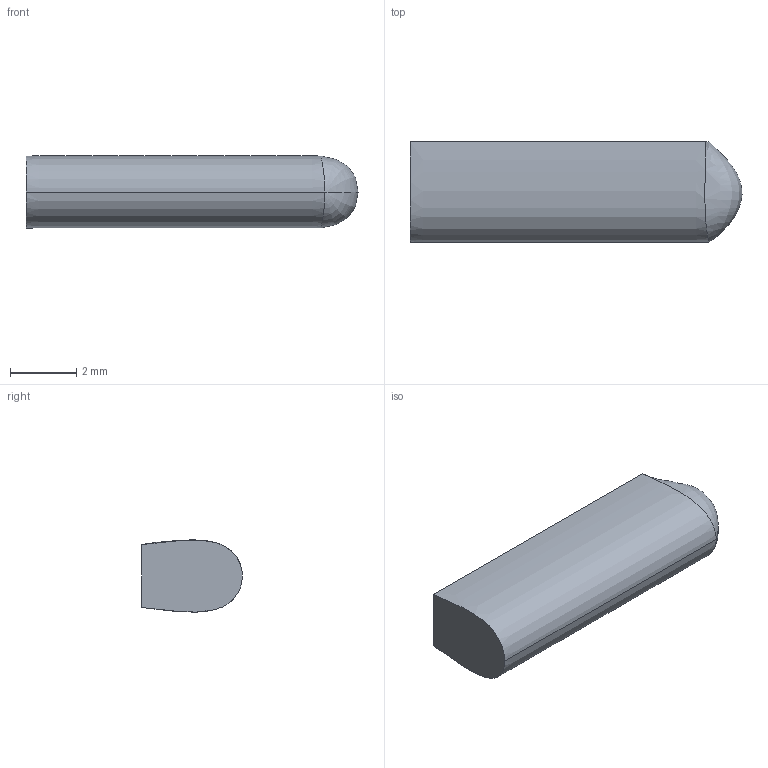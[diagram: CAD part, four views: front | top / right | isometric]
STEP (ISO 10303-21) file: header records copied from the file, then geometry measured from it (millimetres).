
FILE_DESCRIPTION((''),'1');
FILE_NAME('ELEK-ST10-16R','2001-03-30T',('rgoetz'),(''),'PRO/ENGINEER BY PARAMETRIC TECHNOLOGY CORPORATION, 2000350','PRO/ENGINEER BY PARAMETRIC TECHNOLOGY CORPORATION, 2000350','');
FILE_SCHEMA(('CONFIG_CONTROL_DESIGN'));
Length unit declared in the file: millimetre
Products named in the file (1): ELEK-ST10-16R
Bounding box: 10 x 3.03 x 2.18 mm (x, y, z)
Volume: 55.7 mm3; surface area: 96.8 mm2
Topology: 1 solids, 1 shells, 6 faces, 13 edges, 7 vertices
Faces by surface type: plane 2, extrusion 2, bspline 2
Entity records: 613 total; most frequent: CARTESIAN_POINT 472, ORIENTED_EDGE 22, EDGE_CURVE 11, DIRECTION 10, B_SPLINE_CURVE_WITH_KNOTS 9, VERTEX_POINT 7, VECTOR 6, EDGE_LOOP 6
